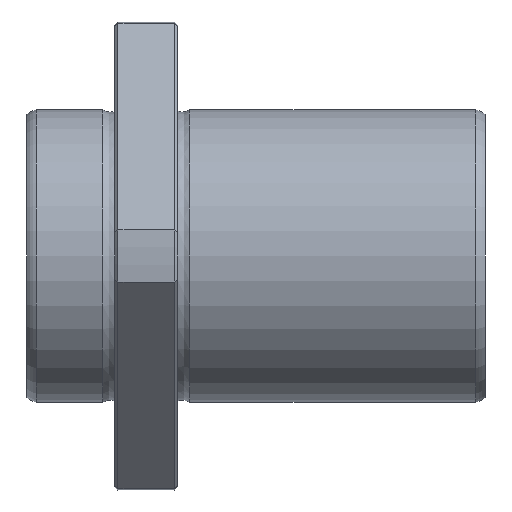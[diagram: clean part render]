
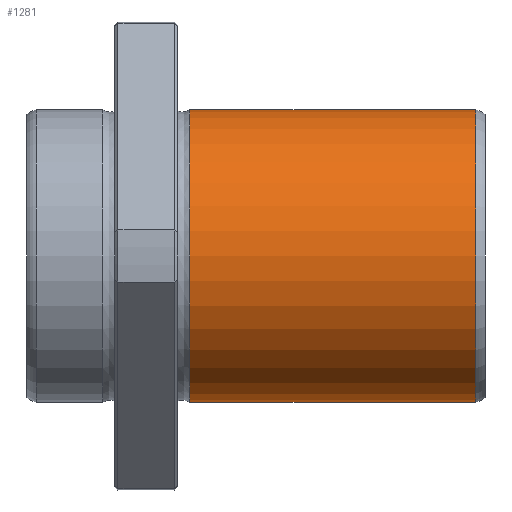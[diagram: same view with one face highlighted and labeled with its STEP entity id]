
A CAD part, front view. The second image highlights one B-rep face of the part: STEP entity #1281.
In plain terms, the highlighted cylindrical face has radius 30 mm (diameter 60 mm), a full revolution.
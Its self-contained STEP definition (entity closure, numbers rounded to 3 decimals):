
#1247=CARTESIAN_POINT('',(92.016,0.0,30.));
#1248=VERTEX_POINT('',#1247);
#1249=CARTESIAN_POINT('',(92.016,0.0,0.0));
#1250=DIRECTION('',(-1.0,0.0,0.0));
#1251=DIRECTION('',(0.0,0.0,1.0));
#1252=AXIS2_PLACEMENT_3D('',#1249,#1250,#1251);
#1253=CIRCLE('',#1252,30.);
#1254=EDGE_CURVE('',#1248,#1248,#1253,.T.);
#1262=CARTESIAN_POINT('',(62.708,0.0,0.0));
#1263=DIRECTION('',(-1.0,0.0,0.0));
#1264=DIRECTION('',(0.0,0.0,1.0));
#1265=AXIS2_PLACEMENT_3D('',#1262,#1263,#1264);
#1266=CYLINDRICAL_SURFACE('',#1265,30.);
#1267=CARTESIAN_POINT('',(33.4,0.0,30.));
#1268=VERTEX_POINT('',#1267);
#1269=CARTESIAN_POINT('',(33.4,0.0,0.0));
#1270=DIRECTION('',(-1.0,0.0,0.0));
#1271=DIRECTION('',(0.0,0.0,1.0));
#1272=AXIS2_PLACEMENT_3D('',#1269,#1270,#1271);
#1273=CIRCLE('',#1272,30.);
#1274=EDGE_CURVE('',#1268,#1268,#1273,.T.);
#1275=ORIENTED_EDGE('',*,*,#1274,.F.);
#1276=EDGE_LOOP('',(#1275));
#1277=FACE_OUTER_BOUND('',#1276,.T.);
#1278=ORIENTED_EDGE('',*,*,#1254,.T.);
#1279=EDGE_LOOP('',(#1278));
#1280=FACE_BOUND('',#1279,.T.);
#1281=ADVANCED_FACE('',(#1277,#1280),#1266,.T.);
